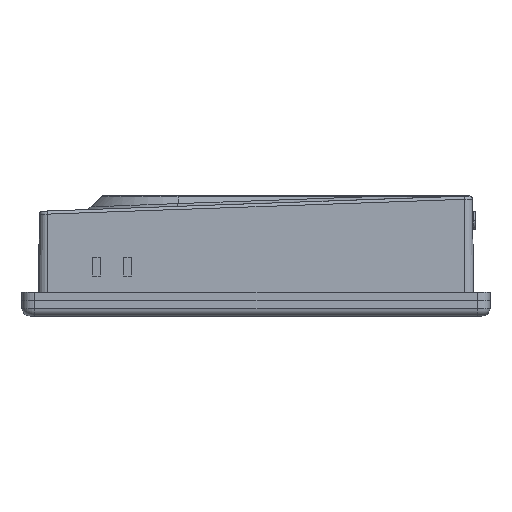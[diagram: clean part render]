
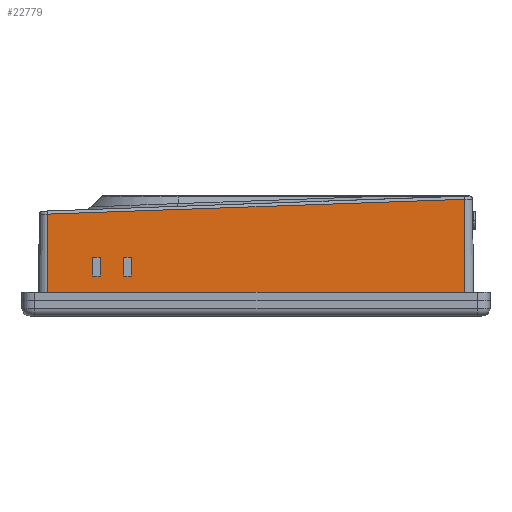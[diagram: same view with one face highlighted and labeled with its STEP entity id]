
A CAD part, left-side view. The second image highlights one B-rep face of the part: STEP entity #22779.
In plain terms, the highlighted planar face has unit normal (-1, 0, 0.018).
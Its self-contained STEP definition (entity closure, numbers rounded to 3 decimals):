
#1235 = VERTEX_POINT ( 'NONE', #70436 ) ;
#3512 = EDGE_CURVE ( 'NONE', #46941, #40694, #55232, .T. ) ;
#4347 = ORIENTED_EDGE ( 'NONE', *, *, #3512, .F. ) ;
#5607 = VECTOR ( 'NONE', #54258, 1000. ) ;
#5988 = DIRECTION ( 'NONE',  ( -0.001, 0.999, -0.036 ) ) ;
#6139 = ORIENTED_EDGE ( 'NONE', *, *, #60956, .F. ) ;
#6266 = LINE ( 'NONE', #67156, #30194 ) ;
#6588 = EDGE_CURVE ( 'NONE', #1235, #62813, #23561, .T. ) ;
#7358 = CARTESIAN_POINT ( 'NONE',  ( -94.869, 41.298, 12.5 ) ) ;
#7853 = CARTESIAN_POINT ( 'NONE',  ( -94.766, 50.998, 18.4 ) ) ;
#8919 = FACE_BOUND ( 'NONE', #28357, .T. ) ;
#9924 = CARTESIAN_POINT ( 'NONE',  ( -94.869, 38.898, 12.5 ) ) ;
#11384 = LINE ( 'NONE', #29788, #14755 ) ;
#12869 = VECTOR ( 'NONE', #5988, 1000. ) ;
#12990 = VECTOR ( 'NONE', #29148, 1000. ) ;
#13394 = EDGE_CURVE ( 'NONE', #24877, #36563, #56326, .T. ) ;
#14136 = CARTESIAN_POINT ( 'NONE',  ( -95., 38.898, 5. ) ) ;
#14755 = VECTOR ( 'NONE', #48585, 1000. ) ;
#17808 = ORIENTED_EDGE ( 'NONE', *, *, #67611, .F. ) ;
#17932 = DIRECTION ( 'NONE',  ( -0.017, 0., -1. ) ) ;
#18673 = DIRECTION ( 'NONE',  ( 0., -1., 0. ) ) ;
#18995 = CARTESIAN_POINT ( 'NONE',  ( -95., -65., 5. ) ) ;
#19519 = LINE ( 'NONE', #25114, #24861 ) ;
#20926 = FACE_OUTER_BOUND ( 'NONE', #31137, .T. ) ;
#21436 = ORIENTED_EDGE ( 'NONE', *, *, #62585, .T. ) ;
#22114 = DIRECTION ( 'NONE',  ( 0.017, 0., 1. ) ) ;
#22659 = ORIENTED_EDGE ( 'NONE', *, *, #6588, .T. ) ;
#22710 = EDGE_CURVE ( 'NONE', #46499, #1235, #56555, .T. ) ;
#22779 = ADVANCED_FACE ( 'NONE', ( #57342, #20926, #8919 ), #45704, .T. ) ;
#23203 = DIRECTION ( 'NONE',  ( 0.017, 0., 1. ) ) ;
#23561 = LINE ( 'NONE', #78931, #12990 ) ;
#23673 = DIRECTION ( 'NONE',  ( 0., 1., 0. ) ) ;
#23811 = CARTESIAN_POINT ( 'NONE',  ( -95., 41.298, 5. ) ) ;
#23884 = ORIENTED_EDGE ( 'NONE', *, *, #44368, .F. ) ;
#24861 = VECTOR ( 'NONE', #17932, 1000. ) ;
#24877 = VERTEX_POINT ( 'NONE', #7853 ) ;
#25114 = CARTESIAN_POINT ( 'NONE',  ( -95., -65., 5. ) ) ;
#25949 = EDGE_CURVE ( 'NONE', #60214, #69415, #74713, .T. ) ;
#27482 = CARTESIAN_POINT ( 'NONE',  ( -95., 50.998, 5. ) ) ;
#27684 = DIRECTION ( 'NONE',  ( -1., 0., 0.017 ) ) ;
#28357 = EDGE_LOOP ( 'NONE', ( #63643, #61068, #17808, #4347 ) ) ;
#29148 = DIRECTION ( 'NONE',  ( 0., -1., 0. ) ) ;
#29788 = CARTESIAN_POINT ( 'NONE',  ( -94.766, -65., 18.4 ) ) ;
#30194 = VECTOR ( 'NONE', #18673, 1000. ) ;
#30204 = LINE ( 'NONE', #23811, #5607 ) ;
#30617 = CARTESIAN_POINT ( 'NONE',  ( -94.451, -65., 36.43 ) ) ;
#30727 = ORIENTED_EDGE ( 'NONE', *, *, #22710, .T. ) ;
#30898 = CARTESIAN_POINT ( 'NONE',  ( -94.766, 41.298, 18.4 ) ) ;
#31137 = EDGE_LOOP ( 'NONE', ( #23884, #21436, #30727, #22659 ) ) ;
#32789 = EDGE_LOOP ( 'NONE', ( #44847, #47462, #6139, #34540 ) ) ;
#34540 = ORIENTED_EDGE ( 'NONE', *, *, #25949, .F. ) ;
#36563 = VERTEX_POINT ( 'NONE', #42215 ) ;
#39304 = CARTESIAN_POINT ( 'NONE',  ( -94.532, 65., 31.806 ) ) ;
#39452 = EDGE_CURVE ( 'NONE', #60811, #60214, #72622, .T. ) ;
#40694 = VERTEX_POINT ( 'NONE', #65196 ) ;
#42215 = CARTESIAN_POINT ( 'NONE',  ( -94.869, 50.998, 12.5 ) ) ;
#42341 = AXIS2_PLACEMENT_3D ( 'NONE', #46107, #27684, #22114 ) ;
#43850 = EDGE_CURVE ( 'NONE', #79032, #60811, #30204, .T. ) ;
#43992 = LINE ( 'NONE', #74908, #12869 ) ;
#44368 = EDGE_CURVE ( 'NONE', #44785, #62813, #19519, .T. ) ;
#44785 = VERTEX_POINT ( 'NONE', #30617 ) ;
#44847 = ORIENTED_EDGE ( 'NONE', *, *, #39452, .F. ) ;
#45704 = PLANE ( 'NONE',  #42341 ) ;
#46107 = CARTESIAN_POINT ( 'NONE',  ( -95., -65., 5. ) ) ;
#46499 = VERTEX_POINT ( 'NONE', #39304 ) ;
#46941 = VERTEX_POINT ( 'NONE', #49569 ) ;
#47462 = ORIENTED_EDGE ( 'NONE', *, *, #43850, .F. ) ;
#47483 = VECTOR ( 'NONE', #55403, 1000. ) ;
#48585 = DIRECTION ( 'NONE',  ( 0., 1., 0. ) ) ;
#49569 = CARTESIAN_POINT ( 'NONE',  ( -94.869, 48.598, 12.5 ) ) ;
#49697 = VECTOR ( 'NONE', #23673, 1000. ) ;
#49754 = VECTOR ( 'NONE', #64324, 1000. ) ;
#49836 = VECTOR ( 'NONE', #60530, 1000. ) ;
#52906 = CARTESIAN_POINT ( 'NONE',  ( -94.766, -65., 18.4 ) ) ;
#53298 = LINE ( 'NONE', #52906, #49697 ) ;
#54258 = DIRECTION ( 'NONE',  ( -0.017, 0., -1. ) ) ;
#55232 = LINE ( 'NONE', #73334, #67545 ) ;
#55403 = DIRECTION ( 'NONE',  ( -0.017, 0., -1. ) ) ;
#56326 = LINE ( 'NONE', #27482, #49754 ) ;
#56555 = LINE ( 'NONE', #62159, #47483 ) ;
#56588 = DIRECTION ( 'NONE',  ( 0.017, 0., 1. ) ) ;
#57342 = FACE_BOUND ( 'NONE', #32789, .T. ) ;
#59150 = EDGE_CURVE ( 'NONE', #36563, #46941, #6266, .T. ) ;
#60214 = VERTEX_POINT ( 'NONE', #9924 ) ;
#60530 = DIRECTION ( 'NONE',  ( 0., -1., 0. ) ) ;
#60811 = VERTEX_POINT ( 'NONE', #7358 ) ;
#60956 = EDGE_CURVE ( 'NONE', #69415, #79032, #53298, .T. ) ;
#61068 = ORIENTED_EDGE ( 'NONE', *, *, #13394, .F. ) ;
#61210 = CARTESIAN_POINT ( 'NONE',  ( -94.766, 38.898, 18.4 ) ) ;
#62159 = CARTESIAN_POINT ( 'NONE',  ( -95., 65., 5. ) ) ;
#62585 = EDGE_CURVE ( 'NONE', #44785, #46499, #43992, .T. ) ;
#62813 = VERTEX_POINT ( 'NONE', #18995 ) ;
#63643 = ORIENTED_EDGE ( 'NONE', *, *, #59150, .F. ) ;
#64324 = DIRECTION ( 'NONE',  ( -0.017, 0., -1. ) ) ;
#65196 = CARTESIAN_POINT ( 'NONE',  ( -94.766, 48.598, 18.4 ) ) ;
#66998 = CARTESIAN_POINT ( 'NONE',  ( -94.869, -65., 12.5 ) ) ;
#67156 = CARTESIAN_POINT ( 'NONE',  ( -94.869, -65., 12.5 ) ) ;
#67545 = VECTOR ( 'NONE', #23203, 1000. ) ;
#67611 = EDGE_CURVE ( 'NONE', #40694, #24877, #11384, .T. ) ;
#69415 = VERTEX_POINT ( 'NONE', #61210 ) ;
#69575 = VECTOR ( 'NONE', #56588, 1000. ) ;
#70436 = CARTESIAN_POINT ( 'NONE',  ( -95., 65., 5. ) ) ;
#72622 = LINE ( 'NONE', #66998, #49836 ) ;
#73334 = CARTESIAN_POINT ( 'NONE',  ( -95., 48.598, 5. ) ) ;
#74713 = LINE ( 'NONE', #14136, #69575 ) ;
#74908 = CARTESIAN_POINT ( 'NONE',  ( -94.452, -63.883, 36.391 ) ) ;
#78931 = CARTESIAN_POINT ( 'NONE',  ( -95., -65., 5. ) ) ;
#79032 = VERTEX_POINT ( 'NONE', #30898 ) ;
